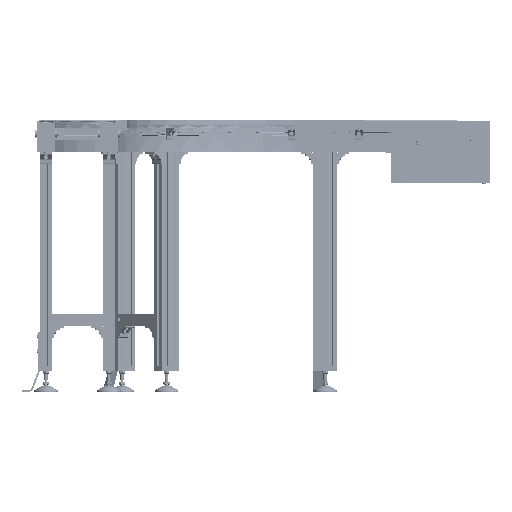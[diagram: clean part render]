
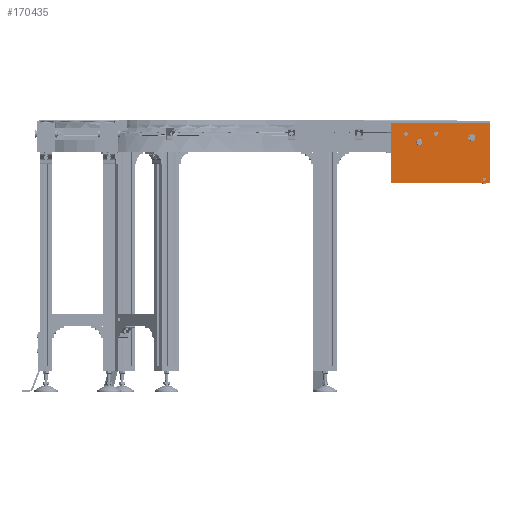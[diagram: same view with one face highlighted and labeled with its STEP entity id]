
A CAD part, left-side view. The second image highlights one B-rep face of the part: STEP entity #170435.
In plain terms, the highlighted planar face has unit normal (-1, 0, 0).
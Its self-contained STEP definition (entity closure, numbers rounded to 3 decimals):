
#16360=LINE('',#282448,#32472);
#16372=LINE('',#282484,#32484);
#16373=LINE('',#282486,#32485);
#16374=LINE('',#282487,#32486);
#32472=VECTOR('',#226631,330.);
#32484=VECTOR('',#226657,200.);
#32485=VECTOR('',#226658,200.);
#32486=VECTOR('',#226659,330.);
#39148=PLANE('',#184505);
#43224=FACE_BOUND('',#60981,.T.);
#43225=FACE_BOUND('',#60982,.T.);
#43226=FACE_BOUND('',#60983,.T.);
#43227=FACE_BOUND('',#60984,.T.);
#43228=FACE_BOUND('',#60985,.T.);
#51068=FACE_OUTER_BOUND('',#60980,.T.);
#60980=EDGE_LOOP('',(#147164,#147165,#147166,#147167));
#60981=EDGE_LOOP('',(#147168));
#60982=EDGE_LOOP('',(#147169));
#60983=EDGE_LOOP('',(#147170));
#60984=EDGE_LOOP('',(#147171));
#60985=EDGE_LOOP('',(#147172));
#67339=CIRCLE('',#184370,10.);
#67386=CIRCLE('',#184469,5.);
#67403=CIRCLE('',#184506,6.5);
#67404=CIRCLE('',#184507,6.5);
#67405=CIRCLE('',#184508,10.);
#81734=VERTEX_POINT('',#282120);
#81808=VERTEX_POINT('',#282341);
#81833=VERTEX_POINT('',#282445);
#81834=VERTEX_POINT('',#282447);
#81851=VERTEX_POINT('',#282483);
#81852=VERTEX_POINT('',#282485);
#81853=VERTEX_POINT('',#282488);
#81854=VERTEX_POINT('',#282490);
#81855=VERTEX_POINT('',#282492);
#104178=EDGE_CURVE('',#81734,#81734,#67339,.T.);
#104273=EDGE_CURVE('',#81808,#81808,#67386,.T.);
#104310=EDGE_CURVE('',#81834,#81833,#16360,.T.);
#104328=EDGE_CURVE('',#81851,#81834,#16372,.T.);
#104329=EDGE_CURVE('',#81833,#81852,#16373,.T.);
#104330=EDGE_CURVE('',#81852,#81851,#16374,.T.);
#104331=EDGE_CURVE('',#81853,#81853,#67403,.T.);
#104332=EDGE_CURVE('',#81854,#81854,#67404,.T.);
#104333=EDGE_CURVE('',#81855,#81855,#67405,.T.);
#147164=ORIENTED_EDGE('',*,*,#104328,.T.);
#147165=ORIENTED_EDGE('',*,*,#104310,.T.);
#147166=ORIENTED_EDGE('',*,*,#104329,.T.);
#147167=ORIENTED_EDGE('',*,*,#104330,.T.);
#147168=ORIENTED_EDGE('',*,*,#104178,.T.);
#147169=ORIENTED_EDGE('',*,*,#104273,.T.);
#147170=ORIENTED_EDGE('',*,*,#104331,.T.);
#147171=ORIENTED_EDGE('',*,*,#104332,.F.);
#147172=ORIENTED_EDGE('',*,*,#104333,.F.);
#170435=ADVANCED_FACE('',(#51068,#43224,#43225,#43226,#43227,#43228),#39148,
 .T.);
#184370=AXIS2_PLACEMENT_3D('',#282121,#226311,#226312);
#184469=AXIS2_PLACEMENT_3D('',#282342,#226557,#226558);
#184505=AXIS2_PLACEMENT_3D('',#282482,#226655,#226656);
#184506=AXIS2_PLACEMENT_3D('',#282489,#226660,#226661);
#184507=AXIS2_PLACEMENT_3D('',#282491,#226662,#226663);
#184508=AXIS2_PLACEMENT_3D('',#282493,#226664,#226665);
#226311=DIRECTION('center_axis',(1.,0.,0.));
#226312=DIRECTION('ref_axis',(0.,0.431,-0.902));
#226557=DIRECTION('center_axis',(1.,0.,0.));
#226558=DIRECTION('ref_axis',(0.,1.,0.));
#226631=DIRECTION('',(0.,1.,0.));
#226655=DIRECTION('center_axis',(-1.,0.,0.));
#226656=DIRECTION('ref_axis',(0.,-1.,0.));
#226657=DIRECTION('',(0.,0.,1.));
#226658=DIRECTION('',(0.,0.,-1.));
#226659=DIRECTION('',(0.,-1.,0.));
#226660=DIRECTION('center_axis',(1.,0.,0.));
#226661=DIRECTION('ref_axis',(0.,1.,0.));
#226662=DIRECTION('center_axis',(-1.,0.,0.));
#226663=DIRECTION('ref_axis',(0.,1.,0.));
#226664=DIRECTION('center_axis',(-1.,0.,0.));
#226665=DIRECTION('ref_axis',(0.,-0.108,0.994));
#282120=CARTESIAN_POINT('',(1147.8,-1321.311,55.723));
#282121=CARTESIAN_POINT('Origin',(1147.8,-1317.,46.7));
#282341=CARTESIAN_POINT('',(1147.8,-1354.,-91.05));
#282342=CARTESIAN_POINT('Origin',(1147.8,-1359.,-91.05));
#282445=CARTESIAN_POINT('',(1147.8,-1048.,96.45));
#282447=CARTESIAN_POINT('',(1147.8,-1378.,96.45));
#282448=CARTESIAN_POINT('',(1147.8,-1213.,96.45));
#282482=CARTESIAN_POINT('Origin',(1147.8,-1213.,-3.55));
#282483=CARTESIAN_POINT('',(1147.8,-1378.,-103.55));
#282484=CARTESIAN_POINT('',(1147.8,-1378.,-3.55));
#282485=CARTESIAN_POINT('',(1147.8,-1048.,-103.55));
#282486=CARTESIAN_POINT('',(1147.8,-1048.,-3.55));
#282487=CARTESIAN_POINT('',(1147.8,-1213.,-103.55));
#282488=CARTESIAN_POINT('',(1147.8,-1191.5,59.975));
#282489=CARTESIAN_POINT('Origin',(1147.8,-1198.,59.975));
#282490=CARTESIAN_POINT('',(1147.8,-1091.5,59.975));
#282491=CARTESIAN_POINT('Origin',(1147.8,-1098.,59.975));
#282492=CARTESIAN_POINT('',(1147.8,-1143.078,42.642));
#282493=CARTESIAN_POINT('Origin',(1147.8,-1142.,32.7));
